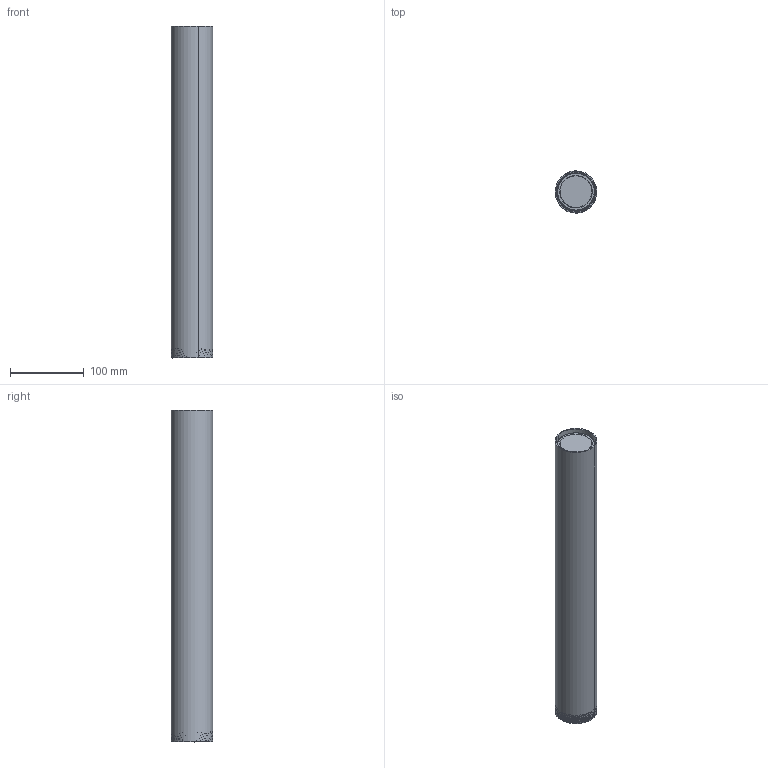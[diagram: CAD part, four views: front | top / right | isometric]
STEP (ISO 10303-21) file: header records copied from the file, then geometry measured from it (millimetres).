
FILE_DESCRIPTION (( 'STEP AP203' ), '1' );
FILE_NAME ('ZOOM - P3764 - PLAFON CONFIG.STEP', '2026-01-21T09:53:02', ( '' ), ( '' ), 'SwSTEP 2.0', 'SolidWorks 2025', '' );
FILE_SCHEMA (( 'CONFIG_CONTROL_DESIGN' ));
Length unit declared in the file: millimetre
Products named in the file (11): gu10_deng_pao.prt.stp; Document_450; di_xian_er.asm.stp; d4-di_xian_er.prt.stp; ZOOM - P3764 - PLAFON CONFIG; 筒子 100_450; gu10_deng_tou.prt.stp; m4x6.prt.stp; m10_ju_hua_jie.prt.stp; 11.prt.stp; eBom-FreeParts
Assembly tree (13 placements, depth 4):
  ZOOM - P3764 - PLAFON CONFIG
    Document_450
      di_xian_er.asm.stp
        m10_ju_hua_jie.prt.stp  x2
        d4-di_xian_er.prt.stp
        m4x6.prt.stp
      gu10_deng_pao.prt.stp
      gu10_deng_tou.prt.stp
      筒子 100_450
      11.prt.stp  x3
    eBom-FreeParts
Bounding box: 56.45 x 56.45 x 450 mm (x, y, z)
Volume: 112292.9 mm3; surface area: 191132.9 mm2
Topology: 2 solids, 11 shells, 808 faces, 2064 edges, 1291 vertices
Faces by surface type: cylinder 310, bspline 272, plane 226
Entity records: 39147 total; most frequent: CARTESIAN_POINT 26386, ORIENTED_EDGE 3380, EDGE_CURVE 1690, B_SPLINE_CURVE_WITH_KNOTS 1082, VERTEX_POINT 1065, DIRECTION 1049, EDGE_LOOP 709, FACE_OUTER_BOUND 663
